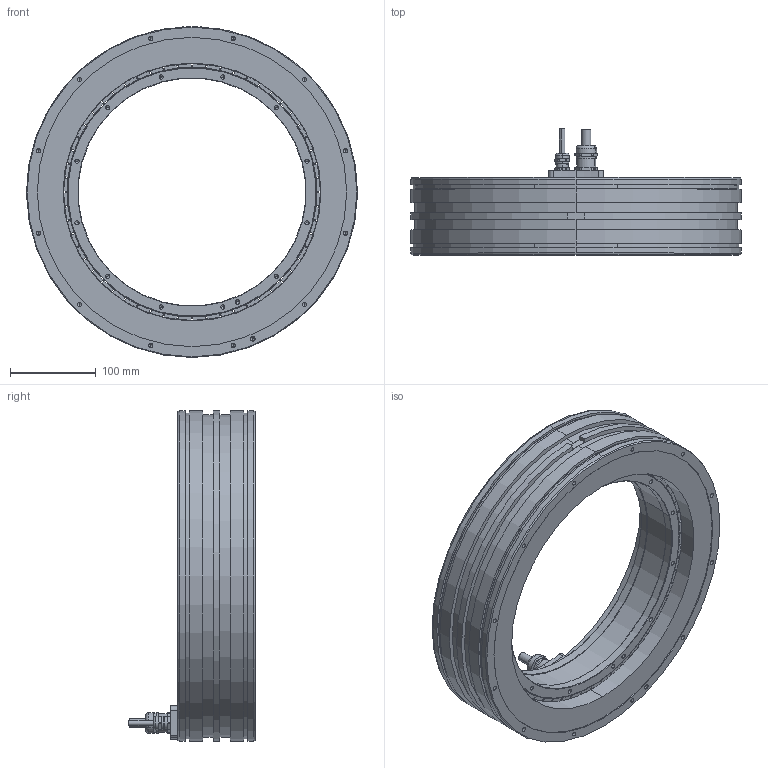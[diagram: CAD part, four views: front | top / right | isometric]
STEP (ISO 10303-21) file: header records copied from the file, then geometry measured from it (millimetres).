
FILE_DESCRIPTION (( 'STEP AP214' ), '1' );
FILE_NAME ('TORQUE KIT QMT HA 385-90-I-AX.STEP', '2025-09-12T09:20:46', ( '' ), ( '' ), 'SwSTEP 2.0', 'SolidWorks 2023', '' );
FILE_SCHEMA (( 'AUTOMOTIVE_DESIGN' ));
Length unit declared in the file: millimetre
Products named in the file (21): Cable; Cable Clamp; Magnet; Cable Connection; Rotor Glued; Rotor Ring; Housing; Rotor; Cable Gland; Housing-BO; Screw; Resin; TORQUE KIT QMT HA 385-90-I-AX; Stator; Cooling Ring
Assembly tree (76 placements, depth 6):
  TORQUE KIT QMT HA 385-90-I-AX
    Stator
      Stator
        Housing
          Housing-BO
            Cooling Ring
        Cable Connection
          Cable Connection
          Cable
          Cable
        Resin
      Cable Clamp
        Cable Clamp
        Cable Gland
        Cable Gland
      Screw  x3
    Rotor
      Rotor Glued
        Rotor Ring
        Magnet  x28
        Magnet  x28
Bounding box: 385 x 147.1 x 385 mm (x, y, z)
Volume: 4602341.4 mm3; surface area: 783306.4 mm2
Topology: 68 solids, 68 shells, 2545 faces, 5823 edges, 3181 vertices
Faces by surface type: cylinder 1093, sphere 560, plane 424, torus 252, cone 216
Entity records: 30889 total; most frequent: CARTESIAN_POINT 4518, DIRECTION 4491, ORIENTED_EDGE 3702, AXIS2_PLACEMENT_3D 1864, EDGE_CURVE 1851, VERTEX_POINT 1163, CIRCLE 960, EDGE_LOOP 958
